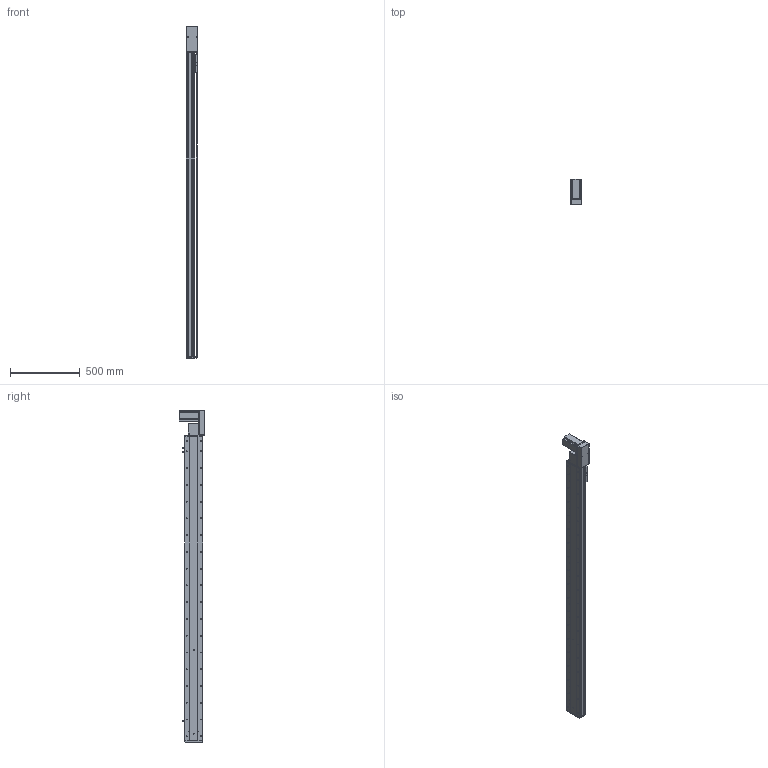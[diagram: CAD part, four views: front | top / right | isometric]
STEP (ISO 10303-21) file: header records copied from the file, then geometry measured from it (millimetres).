
FILE_DESCRIPTION (( 'STEP AP214' ), '1' );
FILE_NAME ('KSD130B-S1950-MLB-CM.STEP', '2019-11-14T05:19:30', ( '微软用户' ), ( '微软中国' ), 'SwSTEP 2.0', 'SolidWorks 2014', '' );
FILE_SCHEMA (( 'AUTOMOTIVE_DESIGN' ));
Length unit declared in the file: millimetre
Products named in the file (12): 台达ECMA－C20807AS伺服电机; 130宽模组保护罩上下左右折-同步带; 130宽模组马达安装板连板左右折同步带; 覜茼え100遵圉猾敕; U倰嫖萇EEㄜSX672; 130宽盖板半封闭同步带-1950行程; 130宽马达安装板同步带左-改; 130宽马达安装板同步带半封闭; 130宽同步带安装座半封闭; 130宽端盖同步带半封闭; 130宽底板半封闭同步带-1950行程; KSD130B-S1950-MLB-CM
Assembly tree (13 placements, depth 2):
  KSD130B-S1950-MLB-CM
    130宽底板半封闭同步带-1950行程
    130宽端盖同步带半封闭
    130宽同步带安装座半封闭
    130宽马达安装板同步带半封闭
    130宽马达安装板同步带左-改
    130宽盖板半封闭同步带-1950行程
    U倰嫖萇EEㄜSX672  x3
    覜茼え100遵圉猾敕
    130宽模组马达安装板连板左右折同步带
    130宽模组保护罩上下左右折-同步带
    台达ECMA－C20807AS伺服电机
Bounding box: 82.5 x 184.8 x 2377 mm (x, y, z)
Volume: 7550466.4 mm3; surface area: 2148357 mm2
Topology: 14 solids, 14 shells, 1779 faces, 5201 edges, 3291 vertices
Faces by surface type: cylinder 882, plane 658, cone 239
Entity records: 61147 total; most frequent: CARTESIAN_POINT 11948, DIRECTION 9187, ORIENTED_EDGE 8910, EDGE_CURVE 4455, AXIS2_PLACEMENT_3D 3390, VERTEX_POINT 2915, VECTOR 2407, LINE 2407
